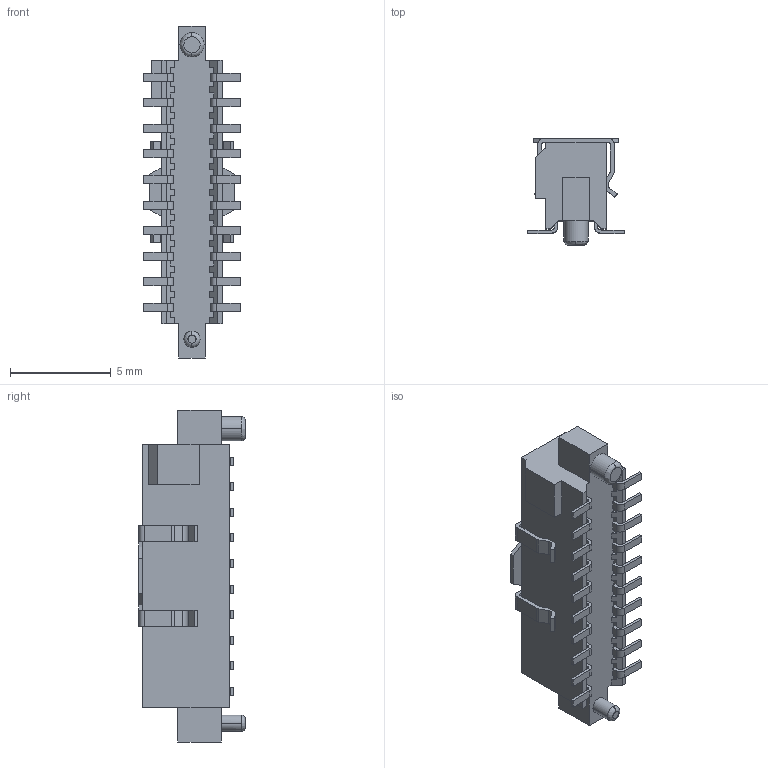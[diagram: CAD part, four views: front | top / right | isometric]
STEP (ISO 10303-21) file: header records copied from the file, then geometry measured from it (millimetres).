
FILE_DESCRIPTION (( 'STEP AP214' ), '1' );
FILE_NAME ('2243-20C00DPT-M.STEP', '2017-08-07T10:28:17', ( '' ), ( '' ), 'SwSTEP 2.0', 'SolidWorks 2011', '' );
FILE_SCHEMA (( 'AUTOMOTIVE_DESIGN' ));
Length unit declared in the file: millimetre
Products named in the file (4): 2243-20C00DPT-M; 2243-M; 2243-contact; 2243-housing
Assembly tree (22 placements, depth 2):
  2243-20C00DPT-M
    2243-contact  x20
    2243-housing
    2243-M
Bounding box: 4.81 x 5.3 x 16.48 mm (x, y, z)
Volume: 177.7 mm3; surface area: 432.4 mm2
Topology: 62 solids, 62 shells, 985 faces, 2437 edges, 1598 vertices
Faces by surface type: plane 831, cylinder 150, bspline 4
Entity records: 16498 total; most frequent: CARTESIAN_POINT 2975, ORIENTED_EDGE 1910, DIRECTION 1811, EDGE_CURVE 955, VECTOR 871, LINE 871, VERTEX_POINT 610, AXIS2_PLACEMENT_3D 470
